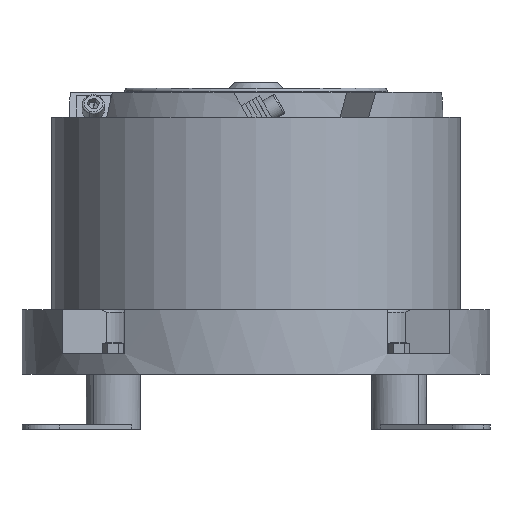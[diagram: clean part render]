
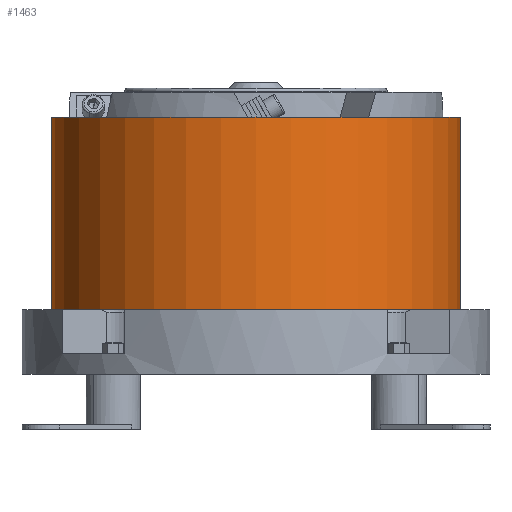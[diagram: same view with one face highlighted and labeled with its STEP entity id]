
A CAD part, front view. The second image highlights one B-rep face of the part: STEP entity #1463.
In plain terms, the highlighted cylindrical face has radius 148.5 mm (diameter 297 mm), a full revolution.
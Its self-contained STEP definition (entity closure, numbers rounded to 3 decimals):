
#541=FACE_BOUND('',#2548,.T.);
#542=FACE_BOUND('',#2549,.T.);
#1007=CYLINDRICAL_SURFACE('',#9604,148.5);
#1463=ADVANCED_FACE('',(#541,#542),#1007,.T.);
#2548=EDGE_LOOP('',(#5406));
#2549=EDGE_LOOP('',(#5407));
#5406=ORIENTED_EDGE('',*,*,#8020,.T.);
#5407=ORIENTED_EDGE('',*,*,#8021,.F.);
#7015=VERTEX_POINT('',#14382);
#7016=VERTEX_POINT('',#14384);
#8020=EDGE_CURVE('',#7015,#7015,#8868,.T.);
#8021=EDGE_CURVE('',#7016,#7016,#8869,.T.);
#8868=CIRCLE('',#9602,148.5);
#8869=CIRCLE('',#9603,148.5);
#9602=AXIS2_PLACEMENT_3D('',#14381,#11420,#11421);
#9603=AXIS2_PLACEMENT_3D('',#14383,#11422,#11423);
#9604=AXIS2_PLACEMENT_3D('',#14385,#11424,#11425);
#11420=DIRECTION('',(0.,0.,-1.));
#11421=DIRECTION('',(-1.,0.,0.));
#11422=DIRECTION('',(0.,0.,-1.));
#11423=DIRECTION('',(-1.,0.,0.));
#11424=DIRECTION('',(0.,0.,1.));
#11425=DIRECTION('',(1.,0.,0.));
#14381=CARTESIAN_POINT('',(-99.879,6.932,81.5));
#14382=CARTESIAN_POINT('',(-248.379,6.932,81.5));
#14383=CARTESIAN_POINT('',(-99.879,6.932,-58.5));
#14384=CARTESIAN_POINT('',(-248.379,6.932,-58.5));
#14385=CARTESIAN_POINT('',(-99.879,6.932,-58.5));
